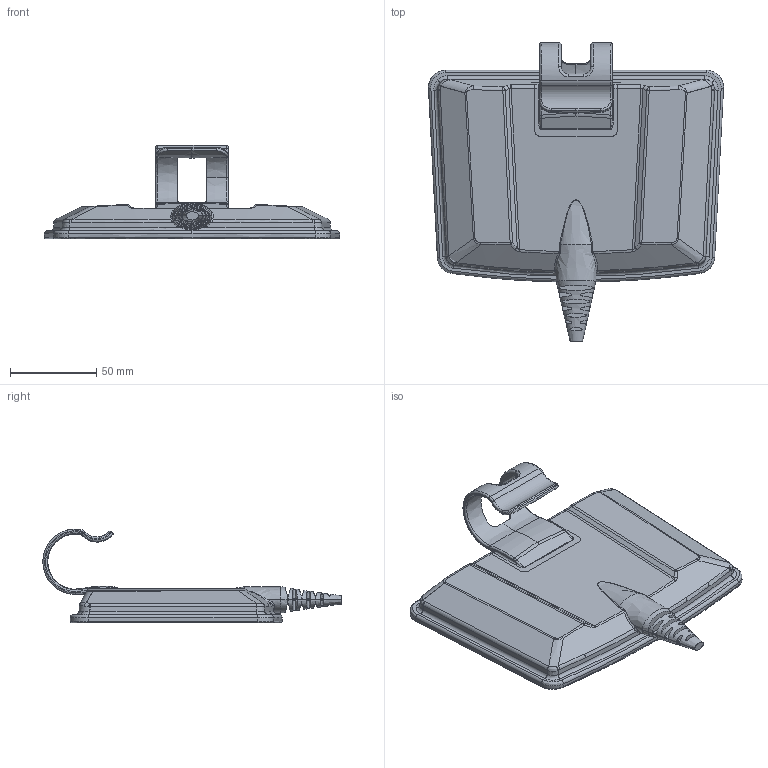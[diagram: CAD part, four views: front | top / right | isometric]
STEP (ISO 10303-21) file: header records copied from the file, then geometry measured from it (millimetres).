
FILE_DESCRIPTION (( 'STEP AP203' ), '1' );
FILE_NAME ('hemsireKumandasý DOLU.STEP', '2023-07-26T10:53:58', ( '' ), ( '' ), 'SwSTEP 2.0', 'SolidWorks 2023', '' );
FILE_SCHEMA (( 'CONFIG_CONTROL_DESIGN' ));
Length unit declared in the file: millimetre
Products named in the file (1): hemsireKumandası DOLU
Bounding box: 171.51 x 173.43 x 54.61 mm (x, y, z)
Volume: 317319.7 mm3; surface area: 55359.1 mm2
Topology: 1 solids, 1 shells, 316 faces, 746 edges, 450 vertices
Faces by surface type: bspline 146, cylinder 75, plane 68, torus 16, cone 11
Entity records: 16623 total; most frequent: CARTESIAN_POINT 10454, ORIENTED_EDGE 1488, DIRECTION 950, EDGE_CURVE 744, VERTEX_POINT 450, AXIS2_PLACEMENT_3D 370, EDGE_LOOP 338, ADVANCED_FACE 316
